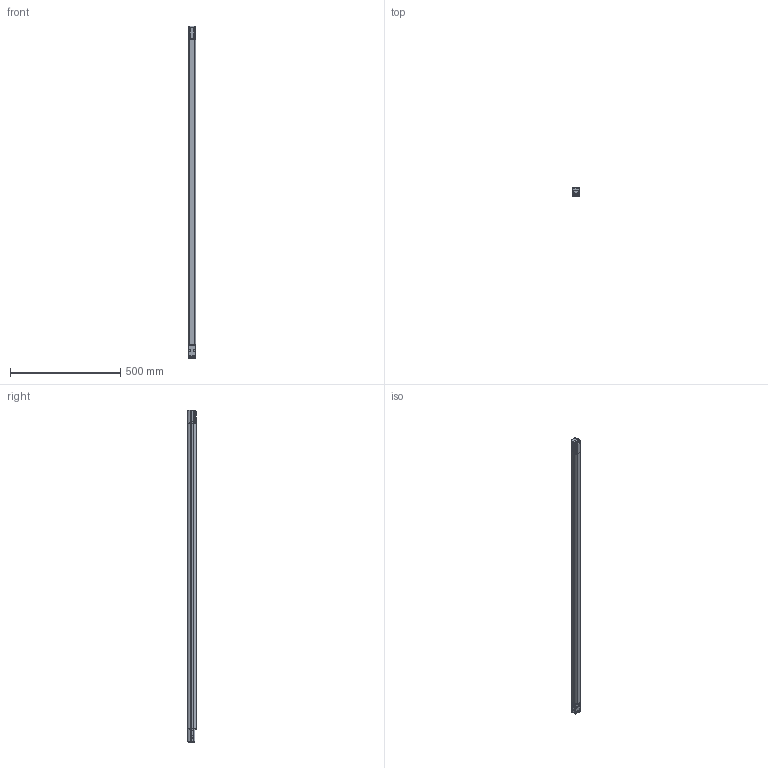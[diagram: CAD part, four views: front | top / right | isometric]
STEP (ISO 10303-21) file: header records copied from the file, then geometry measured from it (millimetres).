
FILE_DESCRIPTION(/* description */ (''),/* implementation_level */ '2;1');
FILE_NAME(/* name */ 'SH4 - 1500 mm DSD Barriera senza Smart Plug.stp',/* time_stamp */ '2022-12-02T18:33:50+01:00',/* author */ (''),/* organization */ (''),/* preprocessor_version */ 'ST-DEVELOPER v16.701',/* originating_system */ 'SIEMENS PLM Software NX 1946',/* authorisation */ '');
FILE_SCHEMA (('AP203_CONFIGURATION_CONTROLLED_3D_DESIGN_OF_MECHANICAL_PARTS_AND_ASSEMBLIES_MIM_LF { 1 0 10303 403 2 1 2}'));
Length unit declared in the file: millimetre
Products named in the file (1): MRos63D4F2E59x1j
Bounding box: 35.08 x 40 x 1509 mm (x, y, z)
Volume: 1773315 mm3; surface area: 347949.8 mm2
Topology: 6 solids, 11 shells, 891 faces, 2428 edges, 1549 vertices
Faces by surface type: plane 363, cylinder 315, bspline 92, cone 55, extrusion 24, sphere 22, torus 20
Full cylindrical faces by diameter (mm): 2.013 x4, 2.2 x4, 3 x4, 4.37 x4, 5 x8
Entity records: 34734 total; most frequent: CARTESIAN_POINT 13104, ORIENTED_EDGE 4576, DIRECTION 3865, EDGE_CURVE 2288, VERTEX_POINT 1515, AXIS2_PLACEMENT_3D 1345, VECTOR 1175, LINE 1151
